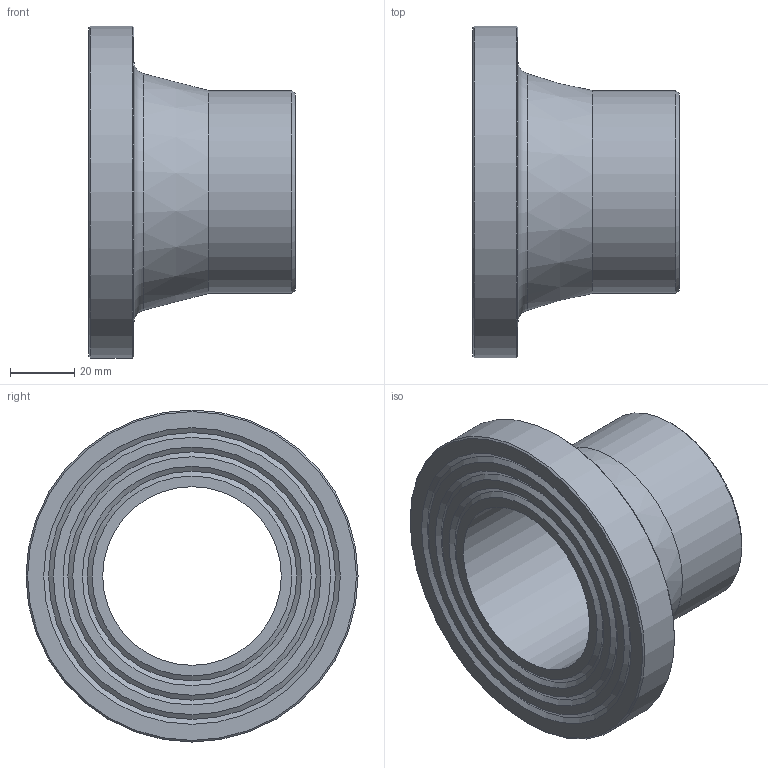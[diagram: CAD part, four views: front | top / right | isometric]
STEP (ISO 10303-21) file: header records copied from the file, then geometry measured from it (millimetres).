
FILE_DESCRIPTION(/* description */ ('Unknown'),/* implementation_level */ '2;1');
FILE_NAME(/* name */ 'CCP063B',/* time_stamp */ '2022-04-04T15:58:10+02:00',/* author */ ('Unknown'),/* organization */ ('Unknown'),/* preprocessor_version */ 'ST-DEVELOPER v18.1',/* originating_system */ 'Solid Edge',/* authorisation */ 'Unknown');
FILE_SCHEMA (('AUTOMOTIVE_DESIGN {1 0 10303 214 3 1 1}'));
Length unit declared in the file: millimetre
Products named in the file (1): CCP063B
Bounding box: 64 x 103 x 103 mm (x, y, z)
Volume: 131827.6 mm3; surface area: 36711.8 mm2
Topology: 1 solids, 1 shells, 20 faces, 35 edges, 21 vertices
Faces by surface type: cone 10, plane 6, cylinder 3, torus 1
Full cylindrical faces by diameter (mm): 55.4 x1, 63 x1, 103 x1
Entity records: 438 total; most frequent: DIRECTION 82, CARTESIAN_POINT 61, AXIS2_PLACEMENT_3D 41, ORIENTED_EDGE 40, EDGE_LOOP 40, FACE_BOUND 40, EDGE_CURVE 20, VERTEX_POINT 20
